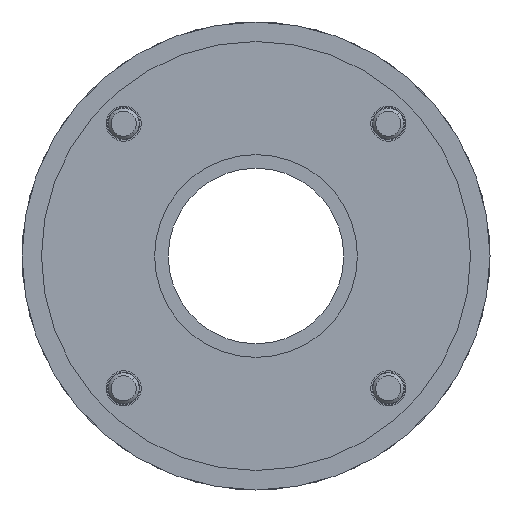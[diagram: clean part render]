
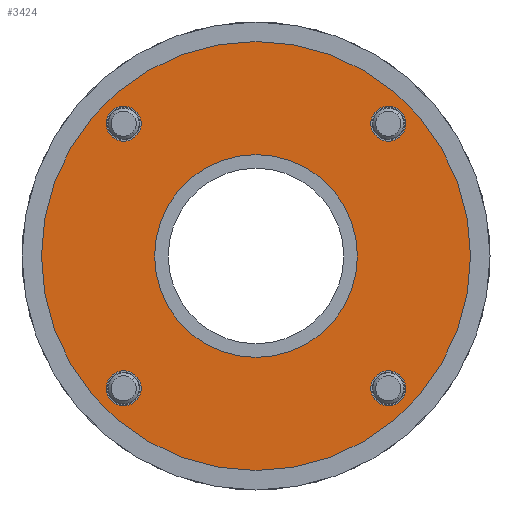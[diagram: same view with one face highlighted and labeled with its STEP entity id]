
A CAD part, left-side view. The second image highlights one B-rep face of the part: STEP entity #3424.
In plain terms, the highlighted planar face has unit normal (-1, 0, 0).
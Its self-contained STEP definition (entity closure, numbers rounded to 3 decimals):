
#24 = VERTEX_POINT ( 'NONE', #3736 ) ;
#71 = VERTEX_POINT ( 'NONE', #5418 ) ;
#235 = AXIS2_PLACEMENT_3D ( 'NONE', #1946, #4621, #2063 ) ;
#236 = ORIENTED_EDGE ( 'NONE', *, *, #2886, .T. ) ;
#317 = FACE_OUTER_BOUND ( 'NONE', #3493, .T. ) ;
#327 = DIRECTION ( 'NONE',  ( 0., 0., -1. ) ) ;
#440 = AXIS2_PLACEMENT_3D ( 'NONE', #3001, #4336, #1674 ) ;
#584 = AXIS2_PLACEMENT_3D ( 'NONE', #4438, #3465, #5227 ) ;
#589 = EDGE_CURVE ( 'NONE', #2961, #1526, #654, .T. ) ;
#654 = CIRCLE ( 'NONE', #1115, 4.5 ) ;
#717 = VERTEX_POINT ( 'NONE', #2754 ) ;
#740 = CIRCLE ( 'NONE', #2480, 4.5 ) ;
#786 = EDGE_LOOP ( 'NONE', ( #2745, #3733 ) ) ;
#811 = CARTESIAN_POINT ( 'NONE',  ( 72.5, 96.941, -24.941 ) ) ;
#821 = ORIENTED_EDGE ( 'NONE', *, *, #4376, .T. ) ;
#852 = CARTESIAN_POINT ( 'NONE',  ( 72.5, 63., 9. ) ) ;
#907 = CIRCLE ( 'NONE', #3004, 55. ) ;
#1106 = EDGE_CURVE ( 'NONE', #3281, #4676, #740, .T. ) ;
#1115 = AXIS2_PLACEMENT_3D ( 'NONE', #2519, #4250, #4674 ) ;
#1172 = AXIS2_PLACEMENT_3D ( 'NONE', #1666, #3896, #5150 ) ;
#1315 = CARTESIAN_POINT ( 'NONE',  ( 72.5, 96.941, -24.941 ) ) ;
#1320 = CIRCLE ( 'NONE', #3138, 4.5 ) ;
#1321 = ORIENTED_EDGE ( 'NONE', *, *, #5493, .F. ) ;
#1334 = DIRECTION ( 'NONE',  ( 0., -1., 0. ) ) ;
#1401 = CARTESIAN_POINT ( 'NONE',  ( 72.5, 92.441, -24.941 ) ) ;
#1402 = EDGE_CURVE ( 'NONE', #1526, #2961, #2759, .T. ) ;
#1420 = AXIS2_PLACEMENT_3D ( 'NONE', #852, #4788, #1640 ) ;
#1452 = EDGE_LOOP ( 'NONE', ( #1762, #3025 ) ) ;
#1526 = VERTEX_POINT ( 'NONE', #3463 ) ;
#1640 = DIRECTION ( 'NONE',  ( 0., 0., -1. ) ) ;
#1666 = CARTESIAN_POINT ( 'NONE',  ( 72.5, 63., 9. ) ) ;
#1674 = DIRECTION ( 'NONE',  ( 0., -1., 0. ) ) ;
#1762 = ORIENTED_EDGE ( 'NONE', *, *, #1402, .T. ) ;
#1771 = EDGE_CURVE ( 'NONE', #2411, #4408, #2349, .T. ) ;
#1946 = CARTESIAN_POINT ( 'NONE',  ( 72.5, 96.941, 42.941 ) ) ;
#1993 = VERTEX_POINT ( 'NONE', #1401 ) ;
#2063 = DIRECTION ( 'NONE',  ( 0., 0., 1. ) ) ;
#2132 = CARTESIAN_POINT ( 'NONE',  ( 72.5, 29.059, -24.941 ) ) ;
#2151 = AXIS2_PLACEMENT_3D ( 'NONE', #2852, #2388, #3740 ) ;
#2164 = DIRECTION ( 'NONE',  ( 1., 0., 0. ) ) ;
#2180 = CIRCLE ( 'NONE', #1172, 26. ) ;
#2349 = CIRCLE ( 'NONE', #235, 4.5 ) ;
#2388 = DIRECTION ( 'NONE',  ( 1., 0., 0. ) ) ;
#2411 = VERTEX_POINT ( 'NONE', #5235 ) ;
#2443 = DIRECTION ( 'NONE',  ( 1., 0., 0. ) ) ;
#2480 = AXIS2_PLACEMENT_3D ( 'NONE', #2132, #2164, #1334 ) ;
#2505 = FACE_BOUND ( 'NONE', #4276, .T. ) ;
#2510 = CARTESIAN_POINT ( 'NONE',  ( 72.5, 96.941, 38.441 ) ) ;
#2516 = EDGE_CURVE ( 'NONE', #4813, #71, #3866, .T. ) ;
#2519 = CARTESIAN_POINT ( 'NONE',  ( 72.5, 29.059, 42.941 ) ) ;
#2526 = ORIENTED_EDGE ( 'NONE', *, *, #3935, .F. ) ;
#2538 = FACE_BOUND ( 'NONE', #4205, .T. ) ;
#2554 = DIRECTION ( 'NONE',  ( 1., 0., 0. ) ) ;
#2566 = FACE_BOUND ( 'NONE', #786, .T. ) ;
#2641 = EDGE_LOOP ( 'NONE', ( #4302, #4077 ) ) ;
#2745 = ORIENTED_EDGE ( 'NONE', *, *, #1106, .T. ) ;
#2754 = CARTESIAN_POINT ( 'NONE',  ( 72.5, 63., 64. ) ) ;
#2759 = CIRCLE ( 'NONE', #5004, 4.5 ) ;
#2784 = CARTESIAN_POINT ( 'NONE',  ( 72.5, 63., -17. ) ) ;
#2852 = CARTESIAN_POINT ( 'NONE',  ( 72.5, 63., 9. ) ) ;
#2858 = CARTESIAN_POINT ( 'NONE',  ( 72.5, 24.559, -24.941 ) ) ;
#2886 = EDGE_CURVE ( 'NONE', #4408, #2411, #5486, .T. ) ;
#2961 = VERTEX_POINT ( 'NONE', #4522 ) ;
#3001 = CARTESIAN_POINT ( 'NONE',  ( 72.5, 29.059, -24.941 ) ) ;
#3004 = AXIS2_PLACEMENT_3D ( 'NONE', #3031, #4762, #327 ) ;
#3025 = ORIENTED_EDGE ( 'NONE', *, *, #589, .T. ) ;
#3031 = CARTESIAN_POINT ( 'NONE',  ( 72.5, 63., 9. ) ) ;
#3087 = DIRECTION ( 'NONE',  ( 0., 1., 0. ) ) ;
#3138 = AXIS2_PLACEMENT_3D ( 'NONE', #811, #2554, #4283 ) ;
#3274 = CIRCLE ( 'NONE', #3545, 4.5 ) ;
#3281 = VERTEX_POINT ( 'NONE', #2858 ) ;
#3317 = CARTESIAN_POINT ( 'NONE',  ( 72.5, 29.059, 42.941 ) ) ;
#3412 = CIRCLE ( 'NONE', #1420, 55. ) ;
#3424 = ADVANCED_FACE ( 'NONE', ( #2538, #2505, #4664, #3862, #2566, #317 ), #4297, .F. ) ;
#3451 = AXIS2_PLACEMENT_3D ( 'NONE', #5206, #5147, #5085 ) ;
#3463 = CARTESIAN_POINT ( 'NONE',  ( 72.5, 29.059, 47.441 ) ) ;
#3465 = DIRECTION ( 'NONE',  ( 1., 0., 0. ) ) ;
#3493 = EDGE_LOOP ( 'NONE', ( #1321, #2526 ) ) ;
#3545 = AXIS2_PLACEMENT_3D ( 'NONE', #1315, #3841, #3087 ) ;
#3733 = ORIENTED_EDGE ( 'NONE', *, *, #3844, .T. ) ;
#3736 = CARTESIAN_POINT ( 'NONE',  ( 72.5, 63., -46. ) ) ;
#3740 = DIRECTION ( 'NONE',  ( 0., 0., -1. ) ) ;
#3819 = ORIENTED_EDGE ( 'NONE', *, *, #1771, .T. ) ;
#3841 = DIRECTION ( 'NONE',  ( 1., 0., 0. ) ) ;
#3844 = EDGE_CURVE ( 'NONE', #4676, #3281, #5357, .T. ) ;
#3862 = FACE_BOUND ( 'NONE', #1452, .T. ) ;
#3866 = CIRCLE ( 'NONE', #2151, 26. ) ;
#3896 = DIRECTION ( 'NONE',  ( 1., 0., 0. ) ) ;
#3902 = EDGE_CURVE ( 'NONE', #4239, #1993, #3274, .T. ) ;
#3911 = CARTESIAN_POINT ( 'NONE',  ( 72.5, 33.559, -24.941 ) ) ;
#3935 = EDGE_CURVE ( 'NONE', #717, #24, #907, .T. ) ;
#4077 = ORIENTED_EDGE ( 'NONE', *, *, #4609, .T. ) ;
#4196 = DIRECTION ( 'NONE',  ( 0., 0., 1. ) ) ;
#4205 = EDGE_LOOP ( 'NONE', ( #4527, #821 ) ) ;
#4239 = VERTEX_POINT ( 'NONE', #5482 ) ;
#4250 = DIRECTION ( 'NONE',  ( 1., 0., 0. ) ) ;
#4276 = EDGE_LOOP ( 'NONE', ( #3819, #236 ) ) ;
#4283 = DIRECTION ( 'NONE',  ( 0., 1., 0. ) ) ;
#4297 = PLANE ( 'NONE',  #3451 ) ;
#4302 = ORIENTED_EDGE ( 'NONE', *, *, #3902, .T. ) ;
#4336 = DIRECTION ( 'NONE',  ( 1., 0., 0. ) ) ;
#4376 = EDGE_CURVE ( 'NONE', #71, #4813, #2180, .T. ) ;
#4408 = VERTEX_POINT ( 'NONE', #2510 ) ;
#4438 = CARTESIAN_POINT ( 'NONE',  ( 72.5, 96.941, 42.941 ) ) ;
#4522 = CARTESIAN_POINT ( 'NONE',  ( 72.5, 29.059, 38.441 ) ) ;
#4527 = ORIENTED_EDGE ( 'NONE', *, *, #2516, .T. ) ;
#4609 = EDGE_CURVE ( 'NONE', #1993, #4239, #1320, .T. ) ;
#4621 = DIRECTION ( 'NONE',  ( 1., 0., 0. ) ) ;
#4664 = FACE_BOUND ( 'NONE', #2641, .T. ) ;
#4674 = DIRECTION ( 'NONE',  ( 0., 0., 1. ) ) ;
#4676 = VERTEX_POINT ( 'NONE', #3911 ) ;
#4762 = DIRECTION ( 'NONE',  ( 1., 0., 0. ) ) ;
#4788 = DIRECTION ( 'NONE',  ( 1., 0., 0. ) ) ;
#4813 = VERTEX_POINT ( 'NONE', #2784 ) ;
#5004 = AXIS2_PLACEMENT_3D ( 'NONE', #3317, #2443, #4196 ) ;
#5085 = DIRECTION ( 'NONE',  ( 0., -1., 0. ) ) ;
#5147 = DIRECTION ( 'NONE',  ( 1., 0., 0. ) ) ;
#5150 = DIRECTION ( 'NONE',  ( 0., 0., -1. ) ) ;
#5206 = CARTESIAN_POINT ( 'NONE',  ( 72.5, 63., 9. ) ) ;
#5227 = DIRECTION ( 'NONE',  ( 0., 0., 1. ) ) ;
#5235 = CARTESIAN_POINT ( 'NONE',  ( 72.5, 96.941, 47.441 ) ) ;
#5357 = CIRCLE ( 'NONE', #440, 4.5 ) ;
#5418 = CARTESIAN_POINT ( 'NONE',  ( 72.5, 63., 35. ) ) ;
#5482 = CARTESIAN_POINT ( 'NONE',  ( 72.5, 101.441, -24.941 ) ) ;
#5486 = CIRCLE ( 'NONE', #584, 4.5 ) ;
#5493 = EDGE_CURVE ( 'NONE', #24, #717, #3412, .T. ) ;
